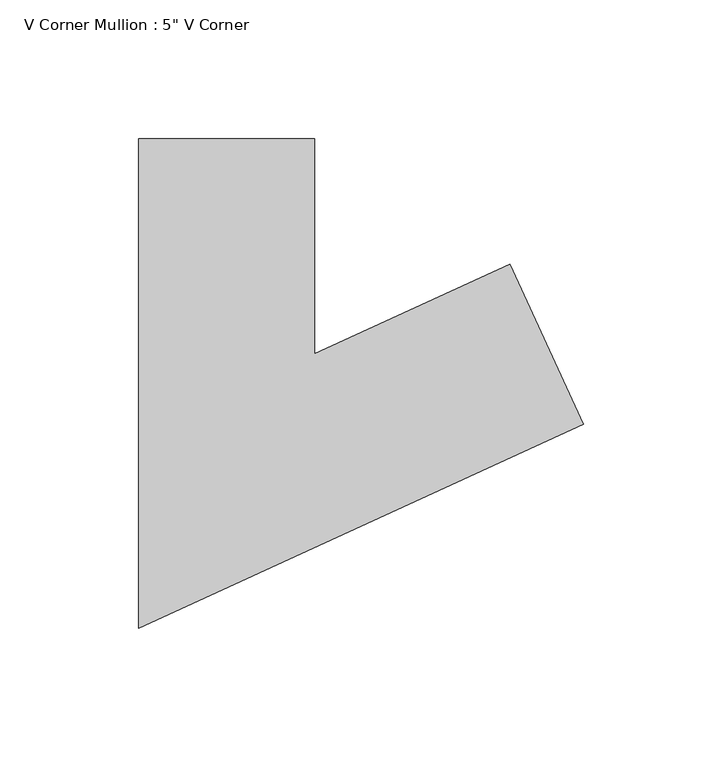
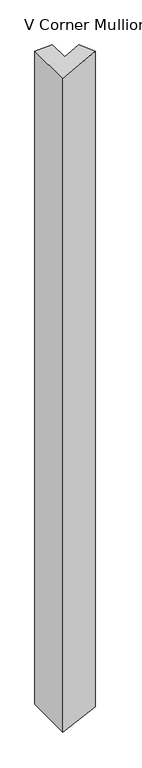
"""IFC4 building model written with IfcOpenShell, lengths in millimetres: member geometry."""

from ifc_helpers import new_model, si_unit, origin, place, context, project, spatial, faceted_brep, source, transform, mapped, element, save


def member_d5e3f06a(model_context):
    return source(origin(), model_context, "Body", "Brep", [
        faceted_brep([(61.49523, 18.2208415, 2.2374388), (87.9205542, -39.5195451, 3.1988962), (87.9205542, -39.5195451, -2517.7484472), (61.49523, 18.2208415, -2517.2198999), (-9.0228811, -14.0523047, -0.328288), (-9.0228811, -14.0523047, -2515.8094287), (-9.0228811, 63.5, -0.328288), (-9.0228811, 63.5, -2515.8094287), (-72.5228811, 63.5, -2.6386682), (-72.5228811, 63.5, -2514.5393306), (-72.5228811, -112.9476953, -2.6386682), (-72.5228811, -112.9476953, -2514.5393306)], [[[0, 1, 2, 3]], [[4, 0, 3, 5]], [[6, 4, 5, 7]], [[8, 6, 7, 9]], [[10, 8, 9, 11]], [[1, 10, 11, 2]], [[1, 0, 4, 6, 8, 10]], [[2, 11, 9, 7, 5, 3]]]),
    ])


if __name__ == "__main__":
    model = new_model("IFC4")
    model_context = context("Model", 3, world=origin())
    ifc_project = project(units=[si_unit("LENGTHUNIT", "METRE", prefix="MILLI")], contexts=[model_context])
    site = spatial("IfcSite", under=ifc_project)
    building = spatial("IfcBuilding", under=site)
    placement = place(None, origin())
    member_shape = member_d5e3f06a(model_context)
    element("IfcMember", 1, ObjectType="V Corner Mullion : 5\" V Corner", at=placement, inside=building, context=model_context, shape_type="MappedRepresentation", body=[
        mapped(member_shape, transform((0.0, 0.0, 0.0), x_axis=(1.0, 0.0, 0.0), y_axis=(0.0, 1.0, 0.0), z_axis=(0.0, 0.0, 1.0))),
    ])
    save(model, "model.ifc")
